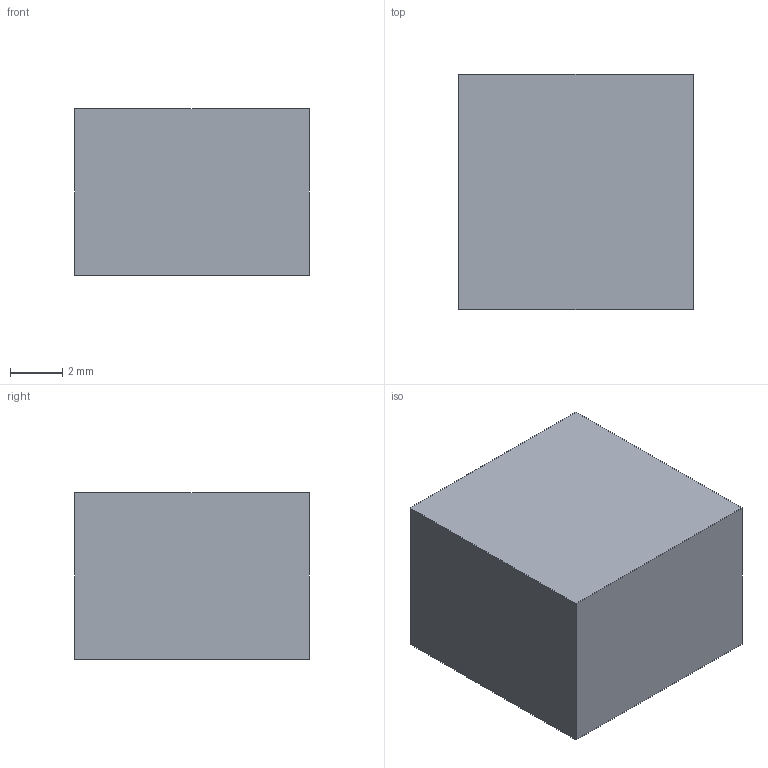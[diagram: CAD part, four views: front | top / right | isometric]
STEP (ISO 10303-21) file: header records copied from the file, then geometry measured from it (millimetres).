
FILE_DESCRIPTION(('Open CASCADE Model'),'2;1');
FILE_NAME('Open CASCADE Shape Model','2026-09-27T04:50:34',('Author'),( 'Open CASCADE'),'Open CASCADE STEP processor 7.8','Open CASCADE 7.8' ,'Unknown');
FILE_SCHEMA(('AUTOMOTIVE_DESIGN { 1 0 10303 214 1 1 1 1 }'));
Length unit declared in the file: millimetre
Products named in the file (1): Open CASCADE STEP translator 7.8 7
Bounding box: 9 x 9 x 6.4 mm (x, y, z)
Volume: 485.5 mm3; surface area: 444.9 mm2
Topology: 1 solids, 1 shells, 15 faces, 30 edges, 20 vertices
Faces by surface type: plane 12, cylinder 3
Entity records: 775 total; most frequent: CARTESIAN_POINT 168, DIRECTION 101, ORIENTED_EDGE 60, PCURVE 60, DEFINITIONAL_REPRESENTATION 60, LINE 54, VECTOR 54, EDGE_CURVE 30
